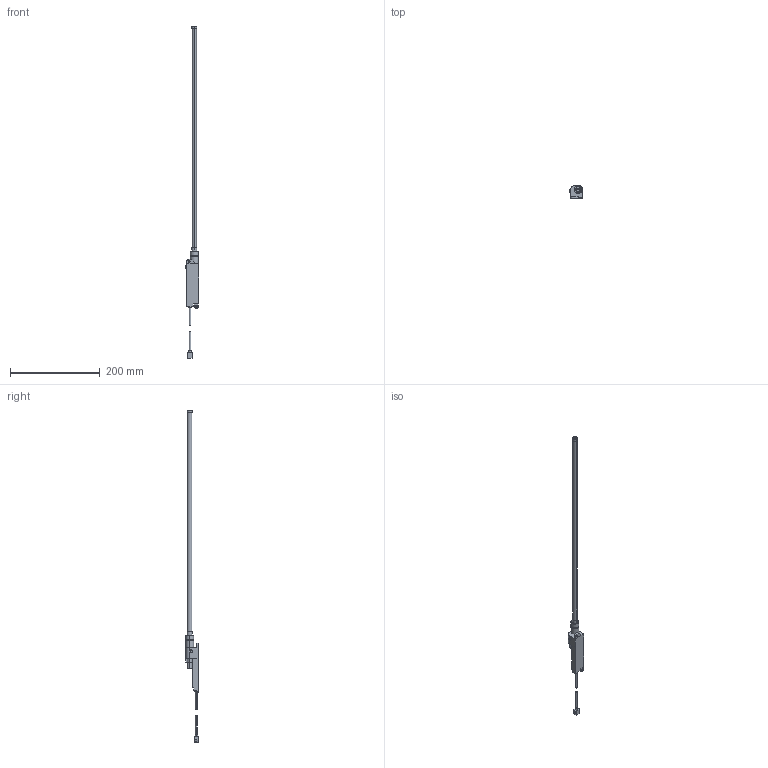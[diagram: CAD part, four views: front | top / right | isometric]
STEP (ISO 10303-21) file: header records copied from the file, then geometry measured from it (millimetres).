
FILE_DESCRIPTION (( 'STEP AP203' ), '1' );
FILE_NAME ('ER-VS01(+ER-VAK50).STEP', '2005-10-26T06:13:16', ( '' ), ( '' ), 'SwSTEP 2.0', 'SolidWorks 2004073', '' );
FILE_SCHEMA (( 'CONFIG_CONTROL_DESIGN' ));
Length unit declared in the file: millimetre
Products named in the file (4): ER-VS01(+ER-VAK50); ER-VS01_蹬怮椔; ER-VAK50_蹬怮椔; ER-VAJK_蹬怮椔
Assembly tree (3 placements, depth 2):
  ER-VS01(+ER-VAK50)
    ER-VS01_蹬怮椔
    ER-VAK50_蹬怮椔
    ER-VAJK_蹬怮椔
Bounding box: 29.8 x 28.6 x 740 mm (x, y, z)
Volume: 84356.8 mm3; surface area: 40214.3 mm2
Topology: 4 solids, 4 shells, 163 faces, 397 edges, 263 vertices
Faces by surface type: plane 94, cylinder 69
Entity records: 5241 total; most frequent: DIRECTION 873, CARTESIAN_POINT 829, ORIENTED_EDGE 794, EDGE_CURVE 397, AXIS2_PLACEMENT_3D 307, VERTEX_POINT 263, VECTOR 259, LINE 259
